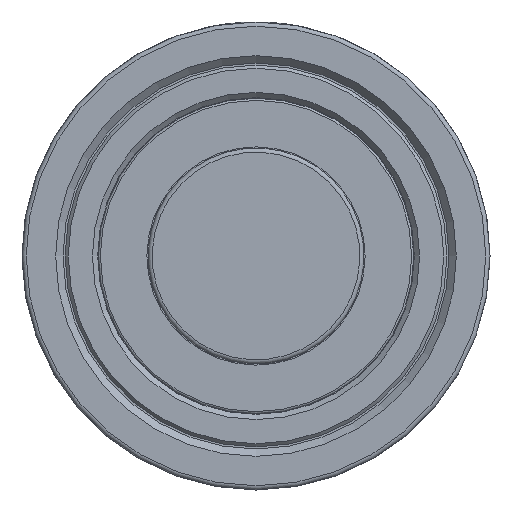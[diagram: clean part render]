
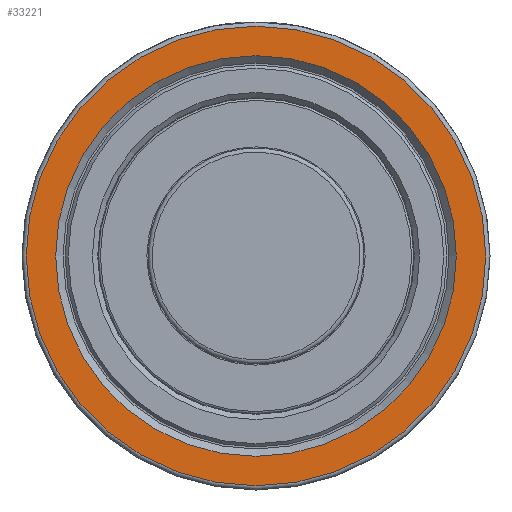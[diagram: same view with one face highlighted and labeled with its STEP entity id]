
A CAD part, left-side view. The second image highlights one B-rep face of the part: STEP entity #33221.
In plain terms, the highlighted planar face has unit normal (-1, 0, 0).
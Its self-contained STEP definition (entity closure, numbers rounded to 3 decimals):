
#9598=FACE_BOUND('',#12614,.T.);
#10795=FACE_OUTER_BOUND('',#12613,.T.);
#12613=EDGE_LOOP('',(#28325));
#12614=EDGE_LOOP('',(#28326));
#13323=CIRCLE('',#34451,19.05);
#13326=CIRCLE('',#34456,21.85);
#15748=VERTEX_POINT('',#64156);
#15751=VERTEX_POINT('',#64166);
#20124=EDGE_CURVE('',#15748,#15748,#13323,.T.);
#20129=EDGE_CURVE('',#15751,#15751,#13326,.T.);
#28325=ORIENTED_EDGE('',*,*,#20129,.F.);
#28326=ORIENTED_EDGE('',*,*,#20124,.F.);
#31875=PLANE('',#34455);
#33221=ADVANCED_FACE('',(#10795,#9598),#31875,.T.);
#34451=AXIS2_PLACEMENT_3D('',#64157,#37383,#37384);
#34455=AXIS2_PLACEMENT_3D('',#64165,#37393,#37394);
#34456=AXIS2_PLACEMENT_3D('',#64167,#37395,#37396);
#37383=DIRECTION('center_axis',(-1.,0.,0.));
#37384=DIRECTION('ref_axis',(0.,0.,
1.));
#37393=DIRECTION('center_axis',(-1.,0.,0.));
#37394=DIRECTION('ref_axis',(0.,1.,0.));
#37395=DIRECTION('center_axis',(1.,0.,0.));
#37396=DIRECTION('ref_axis',(0.,0.,
1.));
#64156=CARTESIAN_POINT('',(-29.512,0.,-19.05));
#64157=CARTESIAN_POINT('Origin',(-29.512,0.,
0.));
#64165=CARTESIAN_POINT('Origin',(-29.512,0.,
-22.25));
#64166=CARTESIAN_POINT('',(-29.512,21.85,0.));
#64167=CARTESIAN_POINT('Origin',(-29.512,0.,
0.));
